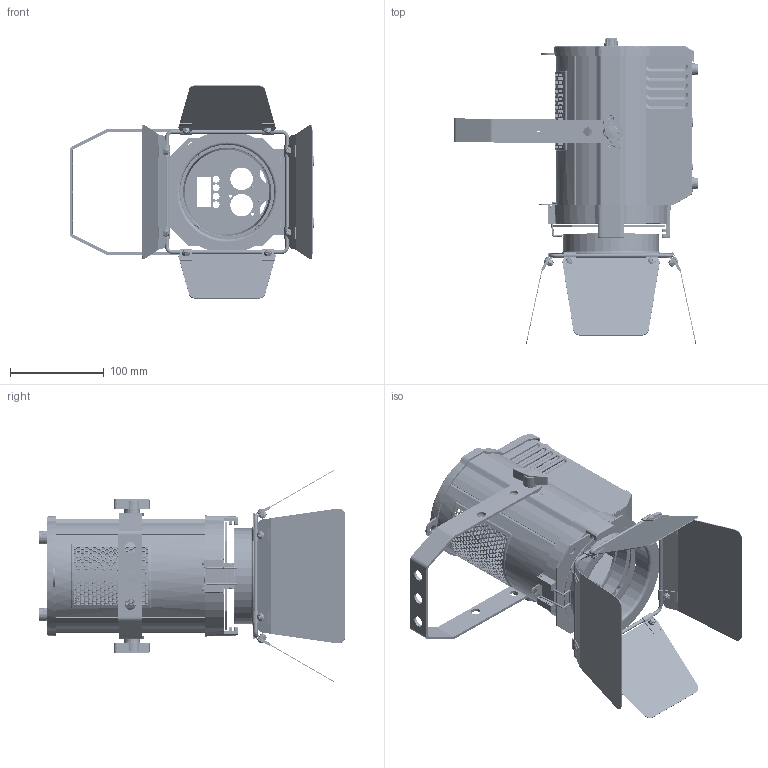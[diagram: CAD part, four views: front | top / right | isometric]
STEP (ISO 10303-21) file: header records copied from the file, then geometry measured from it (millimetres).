
FILE_DESCRIPTION((''),'2;1');
FILE_NAME('EVENT-120T00_ASM','2026-05-27T16:16:20',('ALY'),(''),'CREO PARAMETRIC BY PTC INC, 2022164','CREO PARAMETRIC BY PTC INC, 2022164','');
FILE_SCHEMA(('AUTOMOTIVE_DESIGN { 1 0 10303 214 1 1 1 1 }'));
Products named in the file (39): 0002; 000; 0006; 0008; M3X6-0001; M3X4-0001; 00; 0011; 0012; 0014; 0015; 0013_ASM; 001; M4X8-PRT0001; M4-0001; 50W0001_ASM; M3X8-0001; 0019; 002; M3X60001; M3X8-0002; 50W0002; 200W00; 0021; M3X6-0002; _YC-15-000000002050001; 50W0003; M6X20T0001; M3X5-0001; 0022; 0023; 0024; EVENT-120T00_ASM
Assembly tree (119 placements, depth 4):
  EVENT-120T00_ASM
    0002
    000
    000
    000
    0006
    000
    0008  x2
    M3X6-0001  x10
    M3X4-0001  x10
    000
    00
    0011
    0012
    50W0001_ASM
      0013_ASM
        0014
        0015
      00  x16
      001  x2
      001  x2
      M4X8-PRT0001  x8
      M4-0001  x8
    M3X8-0001  x4
    0019
    002  x4
    M3X60001  x5
    M3X8-0002  x8
    50W0002  x2
    200W00  x2
    0021
    M3X6-0002  x7
    _YC-15-000000002050001  x2
    50W0003
    M6X20T0001  x2
    M3X5-0001  x4
    0022  x2
    0023
    0024
Bounding box: 260.63 x 326.81 x 227.44 mm (x, y, z)
Volume: 384497.5 mm3; surface area: 521872.5 mm2
Topology: 139 solids, 139 shells, 9095 faces, 23288 edges, 14587 vertices
Faces by surface type: plane 3326, cylinder 2690, bspline 1775, cone 792, torus 402, sphere 92, extrusion 18
Entity records: 294067 total; most frequent: CARTESIAN_POINT 97468, ORIENTED_EDGE 26830, DIRECTION 20991, PRESENTATION_STYLE_ASSIGNMENT 17171, STYLED_ITEM 16781, EDGE_CURVE 13415, CURVE_STYLE 12629, VERTEX_POINT 8563
